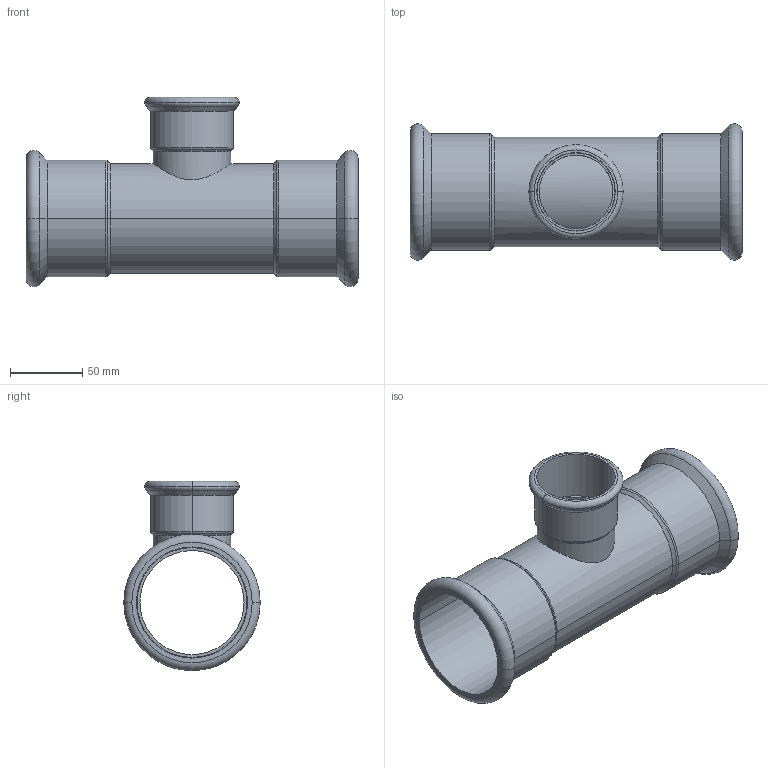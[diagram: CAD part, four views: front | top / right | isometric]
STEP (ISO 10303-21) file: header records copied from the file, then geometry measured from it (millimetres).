
FILE_DESCRIPTION(('CoCreate Modeling STEP Export'),'2;1');
FILE_NAME('C1415 76.1x54x76.1.stp','2014-11-12T10:50:30',(''),(''),'CoCreate Modeling STEP processor for AP214 (Solid Model)','CoCreate Modeling 17.00A 17-Jun-2010 (C) Parametric Technology GmbH','');
FILE_SCHEMA(('AUTOMOTIVE_DESIGN { 1 0 10303 214 1 1 1 1 }'));
Length unit declared in the file: millimetre
Products named in the file (2): C1415_76x54x76
Assembly tree (1 placements, depth 2):
  C1415_76x54x76
    C1415_76x54x76
Bounding box: 230 x 94.48 x 131.24 mm (x, y, z)
Volume: 167345.2 mm3; surface area: 137155.5 mm2
Topology: 1 solids, 1 shells, 62 faces, 127 edges, 75 vertices
Faces by surface type: cylinder 27, torus 14, cone 12, plane 9
Entity records: 2701 total; most frequent: CARTESIAN_POINT 1534, ORIENTED_EDGE 254, DIRECTION 208, EDGE_CURVE 127, AXIS2_PLACEMENT_3D 85, VERTEX_POINT 75, EDGE_LOOP 72, FACE_OUTER_BOUND 62
